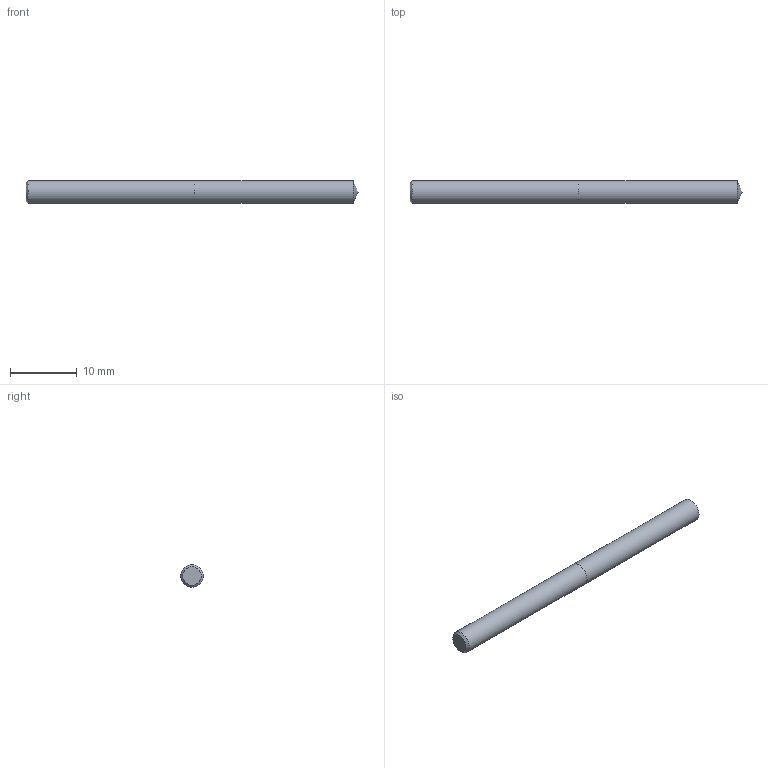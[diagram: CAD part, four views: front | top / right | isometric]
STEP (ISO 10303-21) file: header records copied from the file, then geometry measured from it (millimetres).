
FILE_DESCRIPTION (( 'STEP AP214' ), '1' );
FILE_NAME ('03-2371.STEP', '2022-06-03T06:52:05', ( 'USER' ), ( '' ), 'SwSTEP 2.0', 'SolidWorks 2018', '' );
FILE_SCHEMA (( 'AUTOMOTIVE_DESIGN' ));
Length unit declared in the file: inch
Products named in the file (1): 03-2371
Bounding box: 49.93 x 3.45 x 3.45 mm (x, y, z)
Volume: 462.9 mm3; surface area: 570 mm2
Topology: 2 solids, 2 shells, 7 faces, 11 edges, 7 vertices
Faces by surface type: plane 3, cylinder 2, cone 2
Full cylindrical faces by diameter (mm): 3.454 x2
Entity records: 214 total; most frequent: DIRECTION 26, CARTESIAN_POINT 18, AXIS2_PLACEMENT_3D 13, ORIENTED_EDGE 10, EDGE_LOOP 10, FACE_OUTER_BOUND 9, DIMENSIONAL_EXPONENTS 7, ADVANCED_FACE 7
